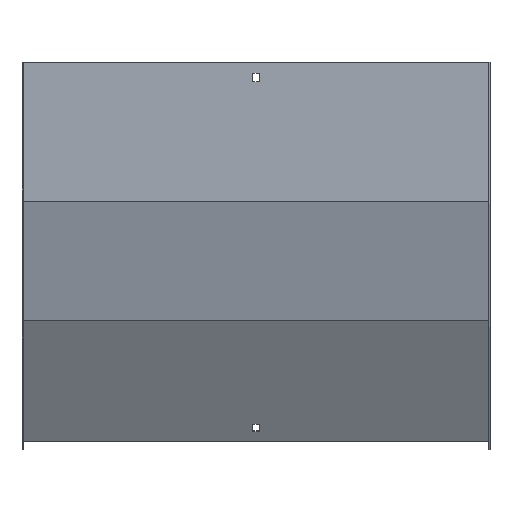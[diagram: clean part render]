
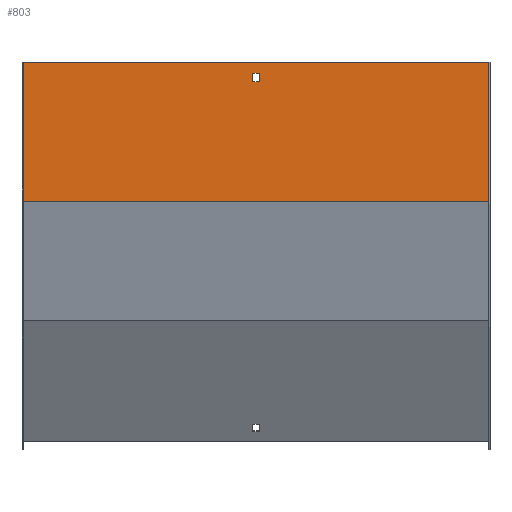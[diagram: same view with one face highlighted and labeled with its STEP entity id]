
A CAD part, front view. The second image highlights one B-rep face of the part: STEP entity #803.
In plain terms, the highlighted planar face has unit normal (0, -1, 0).
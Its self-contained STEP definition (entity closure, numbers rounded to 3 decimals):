
#3 = DIRECTION ( 'NONE',  ( 0., 0., -1. ) ) ;
#9 = DIRECTION ( 'NONE',  ( 0., 0., 1. ) ) ;
#18 = CARTESIAN_POINT ( 'NONE',  ( 251.5, -1.5, -21. ) ) ;
#29 = VECTOR ( 'NONE', #844, 1000. ) ;
#37 = DIRECTION ( 'NONE',  ( 0., 0., 1. ) ) ;
#60 = CARTESIAN_POINT ( 'NONE',  ( -250., -1.5, 0. ) ) ;
#69 = AXIS2_PLACEMENT_3D ( 'NONE', #442, #821, #37 ) ;
#86 = EDGE_LOOP ( 'NONE', ( #315, #540, #558, #554 ) ) ;
#141 = EDGE_CURVE ( 'NONE', #562, #536, #639, .T. ) ;
#169 = EDGE_CURVE ( 'NONE', #502, #536, #254, .T. ) ;
#198 = CARTESIAN_POINT ( 'NONE',  ( 251.5, -1.5, -12. ) ) ;
#204 = VECTOR ( 'NONE', #518, 1000. ) ;
#215 = VERTEX_POINT ( 'NONE', #649 ) ;
#247 = CARTESIAN_POINT ( 'NONE',  ( -250., -1.5, 0. ) ) ;
#254 = LINE ( 'NONE', #247, #204 ) ;
#259 = LINE ( 'NONE', #198, #808 ) ;
#297 = EDGE_CURVE ( 'NONE', #571, #762, #600, .T. ) ;
#307 = LINE ( 'NONE', #827, #334 ) ;
#310 = EDGE_CURVE ( 'NONE', #762, #215, #480, .T. ) ;
#314 = EDGE_CURVE ( 'NONE', #707, #562, #720, .T. ) ;
#315 = ORIENTED_EDGE ( 'NONE', *, *, #169, .T. ) ;
#318 = VECTOR ( 'NONE', #3, 1000. ) ;
#321 = EDGE_CURVE ( 'NONE', #215, #739, #259, .T. ) ;
#329 = DIRECTION ( 'NONE',  ( 1., 0., 0. ) ) ;
#334 = VECTOR ( 'NONE', #515, 1000. ) ;
#348 = CARTESIAN_POINT ( 'NONE',  ( 250., -1.5, 0. ) ) ;
#378 = ORIENTED_EDGE ( 'NONE', *, *, #310, .F. ) ;
#385 = CARTESIAN_POINT ( 'NONE',  ( 251.5, -1.5, -150.097 ) ) ;
#386 = CARTESIAN_POINT ( 'NONE',  ( 250., -1.5, -150.097 ) ) ;
#408 = EDGE_CURVE ( 'NONE', #707, #502, #307, .T. ) ;
#442 = CARTESIAN_POINT ( 'NONE',  ( 251.5, -1.5, 0. ) ) ;
#461 = CARTESIAN_POINT ( 'NONE',  ( -3.25, -1.5, -21. ) ) ;
#464 = CARTESIAN_POINT ( 'NONE',  ( -250., -1.5, -150.097 ) ) ;
#480 = LINE ( 'NONE', #595, #688 ) ;
#498 = FACE_OUTER_BOUND ( 'NONE', #86, .T. ) ;
#502 = VERTEX_POINT ( 'NONE', #60 ) ;
#515 = DIRECTION ( 'NONE',  ( -1., 0., 0. ) ) ;
#518 = DIRECTION ( 'NONE',  ( 0., 0., -1. ) ) ;
#519 = DIRECTION ( 'NONE',  ( 0., 0., -1. ) ) ;
#523 = CARTESIAN_POINT ( 'NONE',  ( -3.25, -1.5, 0. ) ) ;
#525 = EDGE_CURVE ( 'NONE', #739, #571, #726, .T. ) ;
#529 = CARTESIAN_POINT ( 'NONE',  ( 250., -1.5, 0. ) ) ;
#536 = VERTEX_POINT ( 'NONE', #464 ) ;
#538 = CARTESIAN_POINT ( 'NONE',  ( 3.25, -1.5, -21. ) ) ;
#540 = ORIENTED_EDGE ( 'NONE', *, *, #141, .F. ) ;
#554 = ORIENTED_EDGE ( 'NONE', *, *, #408, .T. ) ;
#556 = ORIENTED_EDGE ( 'NONE', *, *, #321, .F. ) ;
#558 = ORIENTED_EDGE ( 'NONE', *, *, #314, .F. ) ;
#562 = VERTEX_POINT ( 'NONE', #386 ) ;
#571 = VERTEX_POINT ( 'NONE', #461 ) ;
#576 = PLANE ( 'NONE',  #69 ) ;
#595 = CARTESIAN_POINT ( 'NONE',  ( 3.25, -1.5, 0. ) ) ;
#600 = LINE ( 'NONE', #18, #785 ) ;
#606 = DIRECTION ( 'NONE',  ( -1., 0., 0. ) ) ;
#618 = EDGE_LOOP ( 'NONE', ( #378, #817, #768, #556 ) ) ;
#639 = LINE ( 'NONE', #385, #29 ) ;
#645 = VECTOR ( 'NONE', #519, 1000. ) ;
#649 = CARTESIAN_POINT ( 'NONE',  ( 3.25, -1.5, -12. ) ) ;
#688 = VECTOR ( 'NONE', #9, 1000. ) ;
#707 = VERTEX_POINT ( 'NONE', #348 ) ;
#720 = LINE ( 'NONE', #529, #318 ) ;
#726 = LINE ( 'NONE', #523, #645 ) ;
#737 = CARTESIAN_POINT ( 'NONE',  ( -3.25, -1.5, -12. ) ) ;
#739 = VERTEX_POINT ( 'NONE', #737 ) ;
#752 = FACE_BOUND ( 'NONE', #618, .T. ) ;
#762 = VERTEX_POINT ( 'NONE', #538 ) ;
#768 = ORIENTED_EDGE ( 'NONE', *, *, #525, .F. ) ;
#785 = VECTOR ( 'NONE', #329, 1000. ) ;
#803 = ADVANCED_FACE ( 'NONE', ( #498, #752 ), #576, .F. ) ;
#808 = VECTOR ( 'NONE', #606, 1000. ) ;
#817 = ORIENTED_EDGE ( 'NONE', *, *, #297, .F. ) ;
#821 = DIRECTION ( 'NONE',  ( 0., 1., 0. ) ) ;
#827 = CARTESIAN_POINT ( 'NONE',  ( 251.5, -1.5, 0. ) ) ;
#844 = DIRECTION ( 'NONE',  ( -1., 0., 0. ) ) ;
